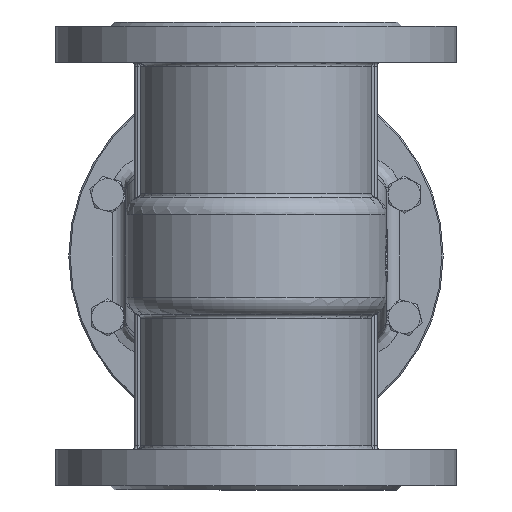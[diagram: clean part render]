
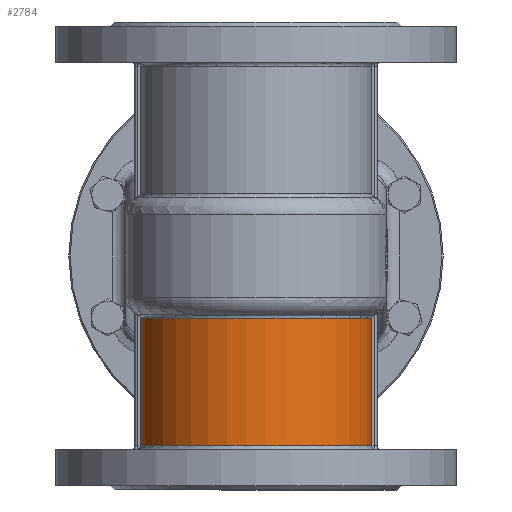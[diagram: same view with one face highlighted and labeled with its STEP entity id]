
A CAD part, front view. The second image highlights one B-rep face of the part: STEP entity #2784.
In plain terms, the highlighted cylindrical face has radius 87.5 mm (diameter 175 mm), a partial arc.
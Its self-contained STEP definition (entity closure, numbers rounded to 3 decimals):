
#2784=ADVANCED_FACE('',(#14757),#14759,.T.);
#14757=FACE_BOUND('',#14758,.T.);
#14758=EDGE_LOOP('',(#25545,#25546,#25547,#25548));
#14759=CYLINDRICAL_SURFACE('',#14760,87.5);
#14760=AXIS2_PLACEMENT_3D('',#14761,#14762,#14763);
#14761=CARTESIAN_POINT('',(0.,0.,-118.));
#14762=DIRECTION('',(0.,0.,1.));
#14763=DIRECTION('',(1.,0.,0.));
#25545=ORIENTED_EDGE('',*,*,#30889,.F.);
#25546=ORIENTED_EDGE('',*,*,#30890,.T.);
#25547=ORIENTED_EDGE('',*,*,#30716,.F.);
#25548=ORIENTED_EDGE('',*,*,#30887,.F.);
#30716=EDGE_CURVE('',#34258,#34260,#34261,.T.);
#30887=EDGE_CURVE('',#34551,#34258,#34554,.T.);
#30889=EDGE_CURVE('',#34556,#34551,#34557,.F.);
#30890=EDGE_CURVE('',#34556,#34260,#34558,.F.);
#34258=VERTEX_POINT('',#44649);
#34260=VERTEX_POINT('',#44728);
#34261=CIRCLE('',#44729,87.5);
#34551=VERTEX_POINT('',#47221);
#34554=LINE('',#47226,#47227);
#34556=VERTEX_POINT('',#47232);
#34557=CIRCLE('',#47233,87.5);
#34558=LINE('',#47237,#47238);
#44649=CARTESIAN_POINT('',(-86.603,-12.5,-46.492));
#44728=CARTESIAN_POINT('',(86.603,-12.5,-46.492));
#44729=AXIS2_PLACEMENT_3D('',#44730,#44731,#44732);
#44730=CARTESIAN_POINT('',(0.,0.,-46.492));
#44731=DIRECTION('',(0.,0.,1.));
#44732=DIRECTION('',(-0.99,-0.143,0.));
#47221=CARTESIAN_POINT('',(-86.603,-12.5,-142.));
#47226=CARTESIAN_POINT('',(-86.603,-12.5,-142.));
#47227=VECTOR('',#47228,1.);
#47228=DIRECTION('',(0.,0.,1.));
#47232=CARTESIAN_POINT('',(86.603,-12.5,-142.));
#47233=AXIS2_PLACEMENT_3D('',#47234,#47235,#47236);
#47234=CARTESIAN_POINT('',(0.,0.,-142.));
#47235=DIRECTION('',(0.,0.,1.));
#47236=DIRECTION('',(-0.99,-0.143,0.));
#47237=CARTESIAN_POINT('',(86.603,-12.5,-46.492));
#47238=VECTOR('',#47239,1.);
#47239=DIRECTION('',(0.,0.,-1.));
